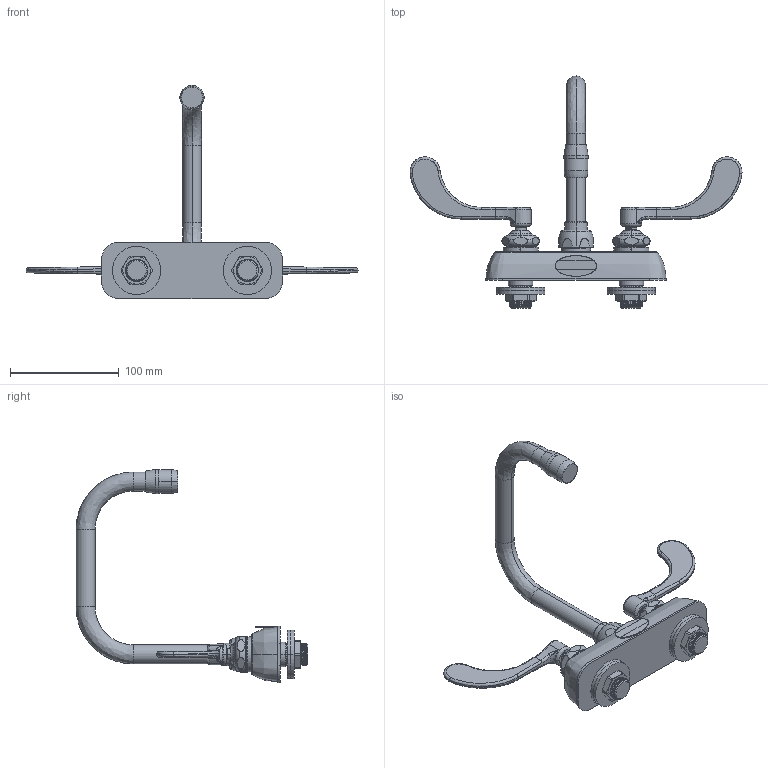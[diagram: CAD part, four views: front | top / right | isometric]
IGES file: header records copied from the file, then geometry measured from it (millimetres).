
Start section:  PTC IGES file: w4d-db6ae35-317abcp_REV090512.igs
Global section: file name: w4d-db6ae35-317abcp_REV090512.igs; native system: Pro/ENGINEER by Parametric Technology Corporation; preprocessor: 2011330; author: sdmitruk; organization: Unknown; date: 20120907.090338; units: inch
Bounding box: 304.79 x 212.89 x 195.7 mm (x, y, z)
Surface area: 95566.8 mm2 (no closed solid volume)
Topology: 0 solids, 0 shells, 409 faces, 3278 edges, 4386 vertices
Faces by surface type: revolution 259, bspline 150
